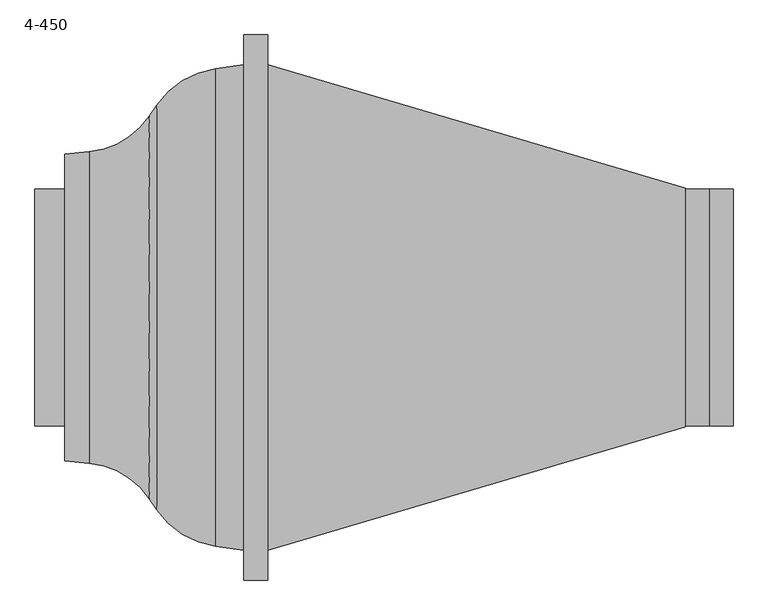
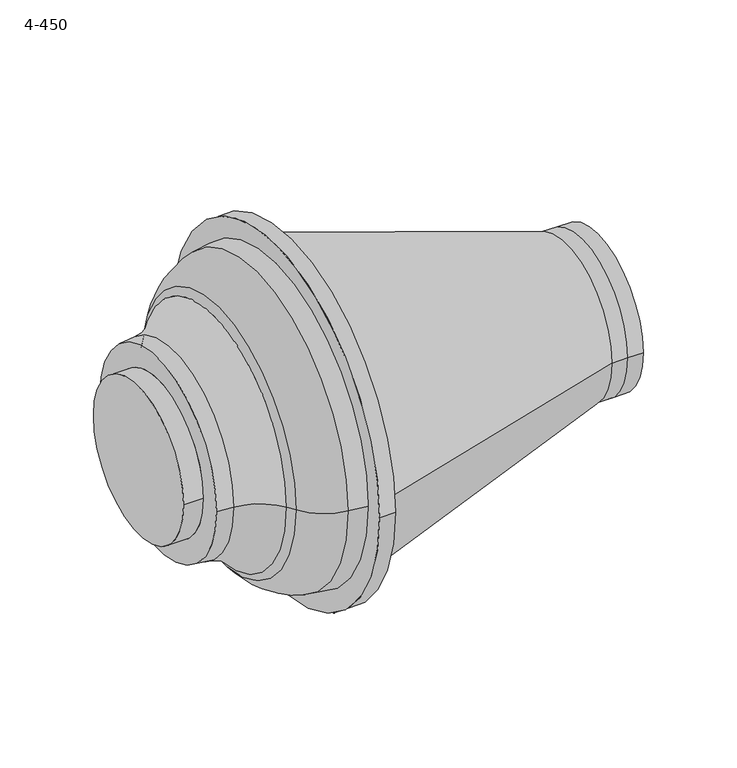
"""IFC4 building model written with IfcOpenShell, lengths in millimetres: unitary equipment geometry, VE-Wentylator-ParaForma-Harmann-VITT_L-Wywiewny : 4-450."""

import ifcopenshell
import ifcopenshell.guid

model = None  # the IFC model being written
_history = None  # IfcOwnerHistory: only IFC2X3 demands one
_inside = {}  # id of a spatial element -> (the spatial element, [elements in it])
_under = {}  # id of a project, library or spatial element -> (it, [spatial elements below it])
_declared = {}  # id of a project -> (the project, [libraries it declares])
_typed = {}  # id of a type object -> (the type object, [elements of that type])
_made_of = {}  # id of a material, layer set ... -> (it, [elements and type objects made of it])


def new_model(schema):
    """Start an empty IFC model of exactly this schema.

    Asked for "IFC4X3", IfcOpenShell would pick the latest addendum, in which some entities
    have other attributes; the version numbers below select the first issue.
    IFC2X3 requires an IfcOwnerHistory on every rooted entity: one is made here for all.
    """
    global model, _history
    if schema == "IFC4X3":
        model = ifcopenshell.file(schema_version=(4, 3, 0, 0))
    else:
        model = ifcopenshell.file(schema=schema)
    _inside.clear()
    _under.clear()
    _declared.clear()
    _typed.clear()
    _made_of.clear()
    _history = None
    if model.schema == "IFC2X3":
        org = make("IfcOrganization", Name="unknown")
        user = make(
            "IfcPersonAndOrganization",
            ThePerson=make("IfcPerson", FamilyName="unknown"),
            TheOrganization=org,
        )
        app = make(
            "IfcApplication",
            ApplicationDeveloper=org,
            Version="unknown",
            ApplicationFullName="unknown",
            ApplicationIdentifier="unknown",
        )
        _history = make(
            "IfcOwnerHistory",
            OwningUser=user,
            OwningApplication=app,
            ChangeAction="ADDED",
            CreationDate=0,
        )
    return model


def make(cls, **values):
    """One entity of the class cls with the attributes given. An attribute that is None is left unset."""
    return model.create_entity(
        cls, **{name: value for name, value in values.items() if value is not None}
    )


def rooted(cls, **values):
    """An entity with a GlobalId (a new one), such as an element, a storey or a relation."""
    return make(cls, GlobalId=ifcopenshell.guid.new(), OwnerHistory=_history, **values)


def si_unit(unit_type, name, prefix=None):
    """IfcSIUnit, for example si_unit("LENGTHUNIT", "METRE", prefix="MILLI")."""
    return make("IfcSIUnit", UnitType=unit_type, Prefix=prefix, Name=name)


def assignment(units):
    """IfcUnitAssignment: the units of a project."""
    return None if units is None else make("IfcUnitAssignment", Units=units)


def point(xyz):
    """IfcCartesianPoint."""
    return None if xyz is None else make("IfcCartesianPoint", Coordinates=xyz)


def direction(xyz):
    """IfcDirection."""
    return None if xyz is None else make("IfcDirection", DirectionRatios=xyz)


def frame(location, z_axis=None, x_axis=None):
    """IfcAxis2Placement3D, a coordinate frame: its origin and axes. An axis left out is left unset."""
    return make(
        "IfcAxis2Placement3D",
        Location=point(location),
        Axis=direction(z_axis),
        RefDirection=direction(x_axis),
    )


def frame_2d(location, x_axis=None):
    """IfcAxis2Placement2D, a coordinate frame in the plane: its origin and x axis."""
    return make(
        "IfcAxis2Placement2D", Location=point(location), RefDirection=direction(x_axis)
    )


def origin():
    """The frame at (0, 0, 0) with its axes left unset."""
    return frame((0.0, 0.0, 0.0))


def origin_2d():
    """The frame at (0, 0) in the plane with its x axis left unset."""
    return frame_2d((0.0, 0.0))


def place(relative_to, where):
    """IfcLocalPlacement: puts the frame where relative to a parent placement (None: the world)."""
    return make(
        "IfcLocalPlacement", PlacementRelTo=relative_to, RelativePlacement=where
    )


def context(
    kind, dimensions, precision=None, world=None, true_north=None, identifier=None
):
    """IfcGeometricRepresentationContext, for example the 3D "Model" context."""
    return make(
        "IfcGeometricRepresentationContext",
        ContextIdentifier=identifier,
        ContextType=kind,
        CoordinateSpaceDimension=dimensions,
        Precision=precision,
        WorldCoordinateSystem=world,
        TrueNorth=true_north,
    )


def project(units=None, contexts=None):
    """IfcProject with its units and contexts."""
    return rooted(
        "IfcProject",
        Name="project",
        RepresentationContexts=contexts,
        UnitsInContext=assignment(units),
    )


def spatial(cls, under=None, at=None, **own):
    """A site, building, storey or space (cls), placed at a placement, below another one or the project."""
    s = rooted(cls, ObjectPlacement=at, **own)
    if under is not None:
        _under.setdefault(under.id(), (under, []))[1].append(s)
    return s


def polyline(points):
    """IfcPolyline through the points."""
    return make("IfcPolyline", Points=[point(p) for p in points])


def circle_curve(where, radius):
    """IfcCircle in the frame where."""
    return make("IfcCircle", Position=where, Radius=radius)


def ellipse_curve(where, semi_axis1, semi_axis2):
    """IfcEllipse in the frame where."""
    return make(
        "IfcEllipse", Position=where, SemiAxis1=semi_axis1, SemiAxis2=semi_axis2
    )


def trimmed(basis, trim1, trim2, sense, master):
    """IfcTrimmedCurve: the piece of a basis curve between two trims."""
    return make(
        "IfcTrimmedCurve",
        BasisCurve=basis,
        Trim1=trim1,
        Trim2=trim2,
        SenseAgreement=sense,
        MasterRepresentation=master,
    )


def segment(curve, same_sense, transition):
    """IfcCompositeCurveSegment."""
    return make(
        "IfcCompositeCurveSegment",
        Transition=transition,
        SameSense=same_sense,
        ParentCurve=curve,
    )


def composite_curve(segments, self_intersect=None):
    """IfcCompositeCurve: segments joined end to end."""
    return make("IfcCompositeCurve", Segments=segments, SelfIntersect=self_intersect)


def outline(outer, holes=None, kind="AREA"):
    """IfcArbitraryClosedProfileDef: a profile drawn as a closed curve; with holes, ...WithVoids."""
    if holes is None:
        return make("IfcArbitraryClosedProfileDef", ProfileType=kind, OuterCurve=outer)
    return make(
        "IfcArbitraryProfileDefWithVoids",
        ProfileType=kind,
        OuterCurve=outer,
        InnerCurves=holes,
    )


def extrude(swept, where, along, depth):
    """IfcExtrudedAreaSolid: the profile swept, set in the frame where, extruded along a direction by depth."""
    return make(
        "IfcExtrudedAreaSolid",
        SweptArea=swept,
        Position=where,
        ExtrudedDirection=direction(along),
        Depth=depth,
    )


def shape(context_of_items, identifier, shape_type, items):
    """IfcShapeRepresentation: the items that make up one representation, for example the "Body"."""
    return make(
        "IfcShapeRepresentation",
        ContextOfItems=context_of_items,
        RepresentationIdentifier=identifier,
        RepresentationType=shape_type,
        Items=items,
    )


def source(mapping_origin, context_of_items, identifier, shape_type, items):
    """IfcRepresentationMap: a shape defined once, which mapped items show again and again."""
    return make(
        "IfcRepresentationMap",
        MappingOrigin=mapping_origin,
        MappedRepresentation=shape(context_of_items, identifier, shape_type, items),
    )


def transform(
    local_origin,
    x_axis=None,
    y_axis=None,
    z_axis=None,
    scale=None,
    scale2=None,
    scale3=None,
    uniform=True,
):
    """IfcCartesianTransformationOperator3D, or its non-uniform kind. x_axis, y_axis, z_axis: its Axis1, 2, 3."""
    if uniform:
        return make(
            "IfcCartesianTransformationOperator3D",
            Axis1=direction(x_axis),
            Axis2=direction(y_axis),
            LocalOrigin=point(local_origin),
            Scale=scale,
            Axis3=direction(z_axis),
        )
    return make(
        "IfcCartesianTransformationOperator3DnonUniform",
        Axis1=direction(x_axis),
        Axis2=direction(y_axis),
        LocalOrigin=point(local_origin),
        Scale=scale,
        Axis3=direction(z_axis),
        Scale2=scale2,
        Scale3=scale3,
    )


def mapped(mapping_source, mapping_target):
    """IfcMappedItem: shows the shape of a source again, moved by a transform."""
    return make(
        "IfcMappedItem", MappingSource=mapping_source, MappingTarget=mapping_target
    )


def made_of(thing, what):
    """Note that an element or type object is made of a material, layer set ...; save() writes the relation."""
    if what is not None:
        _made_of.setdefault(what.id(), (what, []))[1].append(thing)
    return thing


def element(
    cls,
    number,
    at=None,
    inside=None,
    cuts=None,
    type_object=None,
    material=None,
    context=None,
    identifier="Body",
    shape_type=None,
    held_by="IfcProductDefinitionShape",
    body=None,
    shapes=None,
    **own,
):
    """One element of the class cls, such as IfcWall. Its Tag is "e" and its number.

    at: its placement. inside: the storey or other place that contains it. cuts: it is an
    opening in that element (IfcRelVoidsElement). A single representation is given by context,
    identifier, shape_type and body (its items); several are given by shapes. held_by: the class
    of the entity that holds the representations. save() writes the other relations.
    """
    e = rooted(cls, Tag="e%d" % number, ObjectPlacement=at, **own)
    if body is not None:
        shapes = [shape(context, identifier, shape_type, body)]
    if shapes is not None:
        e.Representation = make(held_by, Representations=shapes)
    if inside is not None:
        _inside.setdefault(inside.id(), (inside, []))[1].append(e)
    if cuts is not None:
        rooted(
            "IfcRelVoidsElement", RelatingBuildingElement=cuts, RelatedOpeningElement=e
        )
    if type_object is not None:
        _typed.setdefault(type_object.id(), (type_object, []))[1].append(e)
    return made_of(e, material)


def aggregate(whole, parts):
    """IfcRelAggregates: a whole, such as a stair, and the parts it consists of."""
    return rooted("IfcRelAggregates", RelatingObject=whole, RelatedObjects=parts)


def save(model, path):
    """Write the relations noted so far, then the file.

    IfcRelAggregates (storeys below a building ...), IfcRelContainedInSpatialStructure (elements
    in a storey), IfcRelDefinesByType, IfcRelAssociatesMaterial and IfcRelDeclares: one each for
    every whole, place, type object, material and project.
    """
    for whole, parts in _under.values():
        aggregate(whole, parts)
    for where, things in _inside.values():
        rooted(
            "IfcRelContainedInSpatialStructure",
            RelatedElements=things,
            RelatingStructure=where,
        )
    for kind, things in _typed.values():
        rooted("IfcRelDefinesByType", RelatedObjects=things, RelatingType=kind)
    for what, things in _made_of.values():
        rooted("IfcRelAssociatesMaterial", RelatedObjects=things, RelatingMaterial=what)
    for by, libraries in _declared.values():
        rooted("IfcRelDeclares", RelatingContext=by, RelatedDefinitions=libraries)
    model.write(path)


def plane_surface(at):
    """IfcPlane: the flat surface through the origin of the frame at, square to its z axis."""
    return make("IfcPlane", Position=at)


def cylinder_surface(at, radius):
    """IfcCylindricalSurface: all points at the distance radius from the z axis of the frame at."""
    return make("IfcCylindricalSurface", Position=at, Radius=radius)


def revolved_surface(curve, axis_point, axis_direction):
    """IfcSurfaceOfRevolution: the curve turned about the line through axis_point along axis_direction."""
    return make(
        "IfcSurfaceOfRevolution",
        SweptCurve=make("IfcArbitraryOpenProfileDef", ProfileType="CURVE", Curve=curve),
        AxisPosition=make("IfcAxis1Placement", Location=point(axis_point), Axis=direction(axis_direction)),
    )


def advanced_brep(points, edges, surfaces, faces):
    """IfcAdvancedBrep: a solid bounded by faces that lie on surfaces and meet in shared edges.

    An edge is (start, end): straight between two places in points (the first is 0);
    or (start, end, curve); or (start, end, curve, False) where it runs against its curve.
    A face is (place in surfaces, loops), or (place, loops, False) where it looks against
    its surface's normal. A loop lists edges by number (the first is 1), with a minus sign
    where the edge is run from its end to its start. The first loop is the outer one.
    """
    corners = [point(p) for p in points]
    vertices = [make("IfcVertexPoint", VertexGeometry=c) for c in corners]
    made = []
    for start, end, *more in edges:
        made.append(
            make(
                "IfcEdgeCurve",
                EdgeStart=vertices[start],
                EdgeEnd=vertices[end],
                EdgeGeometry=more[0] if more else make("IfcPolyline", Points=[corners[start], corners[end]]),
                SameSense=more[1] if len(more) > 1 else True,
            )
        )
    hull = []
    for where, loops, *sense in faces:
        bounds = []
        for j, loop in enumerate(loops):
            ring = [make("IfcOrientedEdge", EdgeElement=made[abs(k) - 1], Orientation=k > 0) for k in loop]
            bounds.append(
                make(
                    "IfcFaceOuterBound" if j == 0 else "IfcFaceBound",
                    Bound=make("IfcEdgeLoop", EdgeList=ring),
                    Orientation=True,
                )
            )
        hull.append(make("IfcAdvancedFace", Bounds=bounds, FaceSurface=surfaces[where], SameSense=sense[0] if sense else True))
    return make("IfcAdvancedBrep", Outer=make("IfcClosedShell", CfsFaces=hull))


def unitary_equipment_4_450_5cb35d34(model_context):
    return source(origin(), model_context, "Body", "SolidModel", [
        advanced_brep(
        [(-35.0, -356.1, 0.0), (-35.0, 356.1, 0.0), (-297.5, 225.1, 0.0), (-297.5, -225.1, 0.0), (-297.5, 174.0, 0.0), (-297.5, -174.0, 0.0), (-162.3, -296.9, 0.0), (-173.3, -280.7, 0.0), (-173.3, 280.7, 0.0), (-162.3, 296.9, 0.0), (-76.2, -350.4, 0.0), (-76.2, 350.4, 0.0), (-261.5, -228.5, 0.0), (-261.5, 228.5, 0.0), (-341.3, -174.0, 0.0), (-341.3, 174.0, 0.0)],
        [
            (0, 1, circle_curve(frame((-35.0, 0.0, 0.0), z_axis=(1.0, 0.0, 0.0), x_axis=(0.0, 0.9999999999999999, 0.0)), 356.1)),
            (1, 0, circle_curve(frame((-35.0, 0.0, 0.0), z_axis=(1.0, 0.0, 0.0), x_axis=(0.0, 0.9999999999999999, 0.0)), 356.1)),
            (2, 3, circle_curve(frame((-297.5, 0.0, 0.0), z_axis=(-1.0, 0.0, 0.0), x_axis=(0.0, 0.9999999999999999, 0.0)), 225.1)),
            (3, 2, circle_curve(frame((-297.5, 0.0, 0.0), z_axis=(-1.0, 0.0, 0.0), x_axis=(0.0, 0.9999999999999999, 0.0)), 225.1)),
            (4, 5, circle_curve(frame((-297.5, 0.0, 0.0), z_axis=(1.0, 0.0, 0.0), x_axis=(0.0, 0.9999999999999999, 0.0)), 174.0)),
            (5, 4, circle_curve(frame((-297.5, 0.0, 0.0), z_axis=(1.0, 0.0, 0.0), x_axis=(0.0, 0.9999999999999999, 0.0)), 174.0)),
            (6, 7),
            (7, 8, circle_curve(frame((-173.3, 0.0, 0.0), z_axis=(1.0, 0.0, 0.0), x_axis=(0.0, 0.9999999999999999, 0.0)), 280.7)),
            (8, 9),
            (9, 6, circle_curve(frame((-162.3, 0.0, 0.0), z_axis=(-1.0, 0.0, 0.0), x_axis=(0.0, 0.9999999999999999, 0.0)), 296.9)),
            (6, 9, circle_curve(frame((-162.3, 0.0, 0.0), z_axis=(-1.0, 0.0, 0.0), x_axis=(0.0, 0.9999999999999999, 0.0)), 296.9)),
            (8, 7, circle_curve(frame((-173.3, 0.0, 0.0), z_axis=(1.0, 0.0, 0.0), x_axis=(0.0, 0.9999999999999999, 0.0)), 280.7)),
            (0, 10),
            (10, 11, circle_curve(frame((-76.2, 0.0, 0.0), z_axis=(1.0, 0.0, 0.0), x_axis=(0.0, 0.9999999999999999, 0.0)), 350.4)),
            (11, 1),
            (11, 10, circle_curve(frame((-76.2, 0.0, 0.0), z_axis=(1.0, 0.0, 0.0), x_axis=(0.0, 0.9999999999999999, 0.0)), 350.4)),
            (12, 3),
            (2, 13),
            (13, 12, circle_curve(frame((-261.5, 0.0, 0.0), z_axis=(-1.0, 0.0, 0.0), x_axis=(0.0, 0.9999999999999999, 0.0)), 228.5)),
            (12, 13, circle_curve(frame((-261.5, 0.0, 0.0), z_axis=(-1.0, 0.0, 0.0), x_axis=(0.0, 0.9999999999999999, 0.0)), 228.5)),
            (7, 12, circle_curve(frame((-272.8542544, -348.2985678, 0.0), z_axis=(0.0, 0.0, 1.0000000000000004), x_axis=(0.9999999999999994, 0.0, 0.0)), 120.335431)),
            (13, 8, circle_curve(frame((-272.8542544, 348.2985678, 0.0), z_axis=(0.0, 0.0, 1.0000000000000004), x_axis=(0.9999999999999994, 0.0, 0.0)), 120.335431)),
            (9, 11, circle_curve(frame((-59.0764337, 226.8099241, 0.0), z_axis=(0.0, 0.0, -1.0000000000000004), x_axis=(0.9999999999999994, 0.0, 0.0)), 124.7706832)),
            (10, 6, circle_curve(frame((-59.0764337, -226.8099241, 0.0), z_axis=(0.0, 0.0, -1.0000000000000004), x_axis=(0.9999999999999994, 0.0, 0.0)), 124.7706832)),
            (14, 15, circle_curve(frame((-341.3, 0.0, 0.0), z_axis=(-1.0, 0.0, 0.0), x_axis=(0.0, 0.9999999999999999, 0.0)), 174.0)),
            (15, 14, circle_curve(frame((-341.3, 0.0, 0.0), z_axis=(-1.0, 0.0, 0.0), x_axis=(0.0, 0.9999999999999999, 0.0)), 174.0)),
            (14, 5),
            (4, 15),
        ],
        [
            plane_surface(frame((-35.0, 0.0, 0.0), z_axis=(1.0, 0.0, 0.0), x_axis=(0.0, 0.0, -1.0))),
            plane_surface(frame((-297.5, 0.0, 0.0), z_axis=(-1.0, 0.0, 0.0), x_axis=(0.0, 0.0, -1.0))),
            revolved_surface(polyline([(-162.3, 296.9, 0.0), (-173.3, 280.7, 0.0)]), (-297.5, 0.0, 0.0), (-0.9999999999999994, 0.0, 0.0)),
            revolved_surface(polyline([(-35.0, 356.1, 0.0), (-76.2, 350.4, 0.0)]), (-297.5, 0.0, 0.0), (-0.9999999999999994, 0.0, 0.0)),
            revolved_surface(polyline([(-261.5, 228.5, 0.0), (-297.5, 225.1, 0.0)]), (-297.5, 0.0, 0.0), (-0.9999999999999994, 0.0, 0.0)),
            revolved_surface(trimmed(ellipse_curve(frame((-272.8542544, 348.2985678, 0.0), z_axis=(0.0, 0.0, -1.0000000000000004), x_axis=(0.9999999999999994, 0.0, 0.0)), 120.335431, 120.335431), [point((-173.3, 280.7, 0.0))], [point((-261.5, 228.5, 0.0))], True, "CARTESIAN"), (-297.5, 0.0, 0.0), (-0.9999999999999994, 0.0, 0.0)),
            revolved_surface(trimmed(ellipse_curve(frame((-59.0764337, 226.8099241, 0.0), z_axis=(0.0, 0.0, 1.0000000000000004), x_axis=(0.9999999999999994, 0.0, 0.0)), 124.7706832, 124.7706832), [point((-76.2, 350.4, 0.0))], [point((-162.3, 296.9, 0.0))], True, "CARTESIAN"), (-297.5, 0.0, 0.0), (-0.9999999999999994, 0.0, 0.0)),
            plane_surface(frame((-341.3, 0.0, 0.0), z_axis=(-1.0, 0.0, 0.0), x_axis=(0.0, 0.0, 1.0))),
            cylinder_surface(frame((-341.3, 0.0, 0.0), z_axis=(-0.9999999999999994, 0.0, 0.0), x_axis=(0.0, 0.9999999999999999, 0.0)), 174.0),
        ],
        [
            (0, [[1, 2]]),
            (1, [[3, 4], [5, 6]]),
            (2, [[7, 8, 9, 10]]),
            (2, [[-7, 11, -9, 12]]),
            (3, [[13, 14, 15, -1]]),
            (3, [[-13, -2, -15, 16]]),
            (4, [[17, -3, 18, 19]]),
            (4, [[-17, 20, -18, -4]]),
            (5, [[-8, 21, -19, 22]]),
            (5, [[-12, -22, -20, -21]]),
            (6, [[-10, 23, -14, 24]]),
            (6, [[-11, -24, -16, -23]]),
            (7, [[25, 26]]),
            (8, [[-25, 27, -5, 28]]),
            (8, [[-26, -28, -6, -27]]),
        ],
    ),
        advanced_brep(
        [(612.5, -175.0, 0.0), (612.5, 175.0, 0.0), (612.5, -174.0, 0.0), (612.5, 174.0, 0.0), (0.0, -356.25, 0.0), (0.0, 356.25, 0.0), (647.5, -174.0, 0.0), (647.5, 174.0, 0.0), (682.5, -174.0, 0.0), (682.5, 174.0, 0.0)],
        [
            (0, 1, circle_curve(frame((612.5, 0.0, 0.0), z_axis=(1.0, 0.0, 0.0), x_axis=(0.0, -0.9999999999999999, 0.0)), 175.0)),
            (1, 0, circle_curve(frame((612.5, 0.0, 0.0), z_axis=(1.0, 0.0, 0.0), x_axis=(0.0, 0.9999999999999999, 0.0)), 175.0)),
            (2, 3, circle_curve(frame((612.5, 0.0, 0.0), z_axis=(-1.0, 0.0, 0.0), x_axis=(0.0, 0.9999999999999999, 0.0)), 174.0)),
            (3, 2, circle_curve(frame((612.5, 0.0, 0.0), z_axis=(-1.0, 0.0, 0.0), x_axis=(0.0, 0.9999999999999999, 0.0)), 174.0)),
            (4, 5, circle_curve(frame((0.0, 0.0, 0.0), z_axis=(-1.0, 0.0, 0.0), x_axis=(0.0, 0.9999999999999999, 0.0)), 356.25)),
            (5, 4, circle_curve(frame((0.0, 0.0, 0.0), z_axis=(-1.0, 0.0, 0.0), x_axis=(0.0, -0.9999999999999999, 0.0)), 356.25)),
            (0, 4),
            (5, 1),
            (2, 6),
            (6, 7, circle_curve(frame((647.5, 0.0, 0.0), z_axis=(-1.0, 0.0, 0.0), x_axis=(0.0, 0.9999999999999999, 0.0)), 174.0)),
            (7, 3),
            (7, 6, circle_curve(frame((647.5, 0.0, 0.0), z_axis=(-1.0, 0.0, 0.0), x_axis=(0.0, 0.9999999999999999, 0.0)), 174.0)),
            (8, 9, circle_curve(frame((682.5, 0.0, 0.0), z_axis=(1.0, 0.0, 0.0), x_axis=(0.0, 0.9999999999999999, 0.0)), 174.0)),
            (9, 8, circle_curve(frame((682.5, 0.0, 0.0), z_axis=(1.0, 0.0, 0.0), x_axis=(0.0, 0.9999999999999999, 0.0)), 174.0)),
            (9, 7),
            (6, 8),
        ],
        [
            plane_surface(frame((612.5, 0.0, 0.0), z_axis=(1.0, 0.0, 0.0), x_axis=(0.0, 0.0, -1.0))),
            plane_surface(frame((0.0, 0.0, 0.0), z_axis=(-1.0, 0.0, 0.0), x_axis=(0.0, 0.0, -1.0))),
            revolved_surface(polyline([(612.5, -174.99999999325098, 0.0), (0.0, -356.25, 0.0)]), (1203.8793103, 0.0, 0.0), (-0.9999999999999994, 0.0, 0.0)),
            revolved_surface(polyline([(612.5, 174.99999999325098, 0.0), (0.0, 356.25, 0.0)]), (1203.8793103, 0.0, 0.0), (-0.9999999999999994, 0.0, 0.0)),
            cylinder_surface(frame((612.5, 0.0, 0.0), z_axis=(-0.9999999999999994, 0.0, 0.0), x_axis=(0.0, 0.9999999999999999, 0.0)), 174.0),
            plane_surface(frame((682.5, 0.0, 0.0), z_axis=(1.0, 0.0, 0.0), x_axis=(0.0, 0.0, 1.0))),
        ],
        [
            (0, [[1, 2], [3, 4]]),
            (1, [[5, 6]]),
            (2, [[-1, 7, -6, 8]]),
            (3, [[-2, -8, -5, -7]]),
            (4, [[9, 10, 11, -3]]),
            (4, [[-9, -4, -11, 12]]),
            (5, [[13, 14]]),
            (4, [[-14, 15, -10, 16]]),
            (4, [[-13, -16, -12, -15]]),
        ],
    ),
        extrude(outline(composite_curve([segment(trimmed(circle_curve(origin_2d(), 400.0), [point((-400.0, 0.0))], [point((400.0, 0.0))], False, "CARTESIAN"), True, "CONTINUOUS"), segment(trimmed(circle_curve(origin_2d(), 400.0), [point((400.0, 0.0))], [point((-400.0, 0.0))], False, "CARTESIAN"), True, "CONTINUOUS")], self_intersect=False)), frame((-35.0, 0.0, 0.0), z_axis=(1.0, 0.0, 0.0), x_axis=(0.0, 1.0, 0.0)), (0.0, 0.0, 1.0), 35.0),
    ])


if __name__ == "__main__":
    model = new_model("IFC4")
    model_context = context("Model", 3, world=origin())
    ifc_project = project(units=[si_unit("LENGTHUNIT", "METRE", prefix="MILLI")], contexts=[model_context])
    site = spatial("IfcSite", under=ifc_project)
    building = spatial("IfcBuilding", under=site)
    placement = place(None, origin())
    unitary_equipment_4_450_shape = unitary_equipment_4_450_5cb35d34(model_context)
    element("IfcUnitaryEquipment", 1, ObjectType="VE-Wentylator-ParaForma-Harmann-VITT_L-Wywiewny : 4-450", at=placement, inside=building, context=model_context, shape_type="MappedRepresentation", body=[
        mapped(unitary_equipment_4_450_shape, transform((0.0, 0.0, 0.0), x_axis=(1.0, 0.0, 0.0), y_axis=(0.0, 1.0, 0.0), z_axis=(0.0, 0.0, 1.0))),
    ])
    save(model, "model.ifc")
